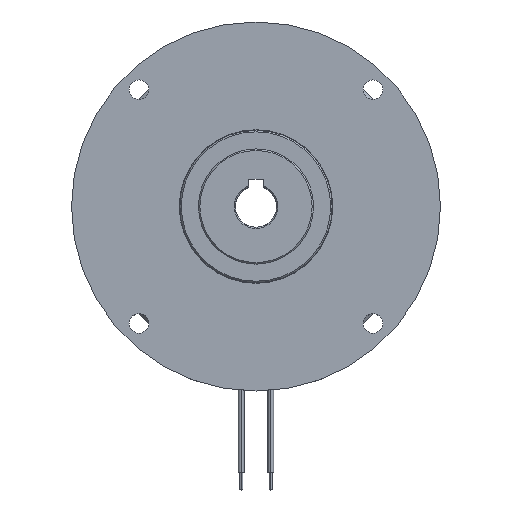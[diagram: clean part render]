
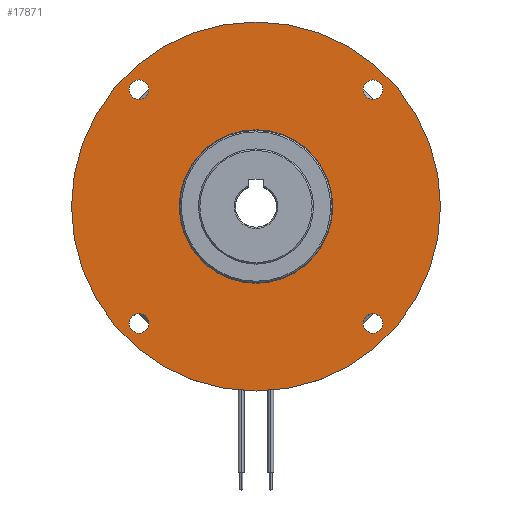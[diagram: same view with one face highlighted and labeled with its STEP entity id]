
A CAD part, top view. The second image highlights one B-rep face of the part: STEP entity #17871.
In plain terms, the highlighted planar face has unit normal (0, 0, 1).
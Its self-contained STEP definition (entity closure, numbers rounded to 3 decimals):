
#68 = AXIS2_PLACEMENT_3D ( 'NONE', #74903, #23987, #92444 ) ;
#269 = ORIENTED_EDGE ( 'NONE', *, *, #65833, .F. ) ;
#660 = DIRECTION ( 'NONE',  ( 0., 0., -1. ) ) ;
#692 = DIRECTION ( 'NONE',  ( -1., 0., 0. ) ) ;
#1361 = CIRCLE ( 'NONE', #68245, 3.3 ) ;
#1866 = DIRECTION ( 'NONE',  ( -1., 0., 0. ) ) ;
#3695 = CIRCLE ( 'NONE', #12713, 62.5 ) ;
#4883 = EDGE_LOOP ( 'NONE', ( #16356, #80460 ) ) ;
#5088 = CIRCLE ( 'NONE', #46680, 3.3 ) ;
#6020 = DIRECTION ( 'NONE',  ( 0., 0., -1. ) ) ;
#7030 = CIRCLE ( 'NONE', #70202, 62.5 ) ;
#7189 = CARTESIAN_POINT ( 'NONE',  ( -42.898, -39.598, 0. ) ) ;
#8054 = CARTESIAN_POINT ( 'NONE',  ( -39.598, 39.598, 0. ) ) ;
#9470 = CARTESIAN_POINT ( 'NONE',  ( 0., 0., 0. ) ) ;
#9698 = EDGE_LOOP ( 'NONE', ( #66117, #92551 ) ) ;
#12713 = AXIS2_PLACEMENT_3D ( 'NONE', #110730, #76758, #33273 ) ;
#13439 = EDGE_LOOP ( 'NONE', ( #101903, #82038 ) ) ;
#16356 = ORIENTED_EDGE ( 'NONE', *, *, #108121, .T. ) ;
#16837 = VERTEX_POINT ( 'NONE', #46848 ) ;
#16967 = VERTEX_POINT ( 'NONE', #7189 ) ;
#17064 = ORIENTED_EDGE ( 'NONE', *, *, #96560, .F. ) ;
#17630 = FACE_BOUND ( 'NONE', #90251, .T. ) ;
#17871 = ADVANCED_FACE ( 'NONE', ( #103616, #17630, #111565, #60642, #44217, #86608 ), #43670, .F. ) ;
#18664 = AXIS2_PLACEMENT_3D ( 'NONE', #83115, #75193, #92736 ) ;
#19136 = AXIS2_PLACEMENT_3D ( 'NONE', #34771, #26816, #1866 ) ;
#19242 = AXIS2_PLACEMENT_3D ( 'NONE', #78135, #660, #76461 ) ;
#20555 = CARTESIAN_POINT ( 'NONE',  ( 42.898, 39.598, 0. ) ) ;
#21844 = DIRECTION ( 'NONE',  ( -1., 0., 0. ) ) ;
#23235 = CARTESIAN_POINT ( 'NONE',  ( 39.598, -39.598, 0. ) ) ;
#23514 = EDGE_LOOP ( 'NONE', ( #96512, #34102 ) ) ;
#23987 = DIRECTION ( 'NONE',  ( 0., 0., -1. ) ) ;
#25369 = DIRECTION ( 'NONE',  ( 0., 0., -1. ) ) ;
#26613 = CARTESIAN_POINT ( 'NONE',  ( 39.598, -39.598, 0. ) ) ;
#26816 = DIRECTION ( 'NONE',  ( 0., 0., -1. ) ) ;
#26890 = VERTEX_POINT ( 'NONE', #72014 ) ;
#28003 = CARTESIAN_POINT ( 'NONE',  ( 62.5, 0., 0. ) ) ;
#28150 = DIRECTION ( 'NONE',  ( 0., 0., -1. ) ) ;
#29983 = VERTEX_POINT ( 'NONE', #70294 ) ;
#30947 = DIRECTION ( 'NONE',  ( 0., 0., -1. ) ) ;
#31360 = CARTESIAN_POINT ( 'NONE',  ( -36.298, -39.598, 0. ) ) ;
#31887 = CIRCLE ( 'NONE', #19136, 26. ) ;
#33273 = DIRECTION ( 'NONE',  ( -1., 0., 0. ) ) ;
#34014 = DIRECTION ( 'NONE',  ( 0., 0., -1. ) ) ;
#34102 = ORIENTED_EDGE ( 'NONE', *, *, #56947, .T. ) ;
#34771 = CARTESIAN_POINT ( 'NONE',  ( 0., 0., 0. ) ) ;
#37640 = VERTEX_POINT ( 'NONE', #50571 ) ;
#37889 = AXIS2_PLACEMENT_3D ( 'NONE', #23235, #40217, #92248 ) ;
#40217 = DIRECTION ( 'NONE',  ( 0., 0., -1. ) ) ;
#43472 = CIRCLE ( 'NONE', #68, 3.3 ) ;
#43513 = DIRECTION ( 'NONE',  ( 0., 0., -1. ) ) ;
#43670 = PLANE ( 'NONE',  #19242 ) ;
#44217 = FACE_OUTER_BOUND ( 'NONE', #87668, .T. ) ;
#46508 = CARTESIAN_POINT ( 'NONE',  ( 26., 0., 0. ) ) ;
#46680 = AXIS2_PLACEMENT_3D ( 'NONE', #26613, #34014, #94472 ) ;
#46848 = CARTESIAN_POINT ( 'NONE',  ( -26., 0., 0. ) ) ;
#49056 = CARTESIAN_POINT ( 'NONE',  ( 39.598, 39.598, 0. ) ) ;
#49224 = AXIS2_PLACEMENT_3D ( 'NONE', #49056, #6020, #99368 ) ;
#49404 = CIRCLE ( 'NONE', #18664, 3.3 ) ;
#50571 = CARTESIAN_POINT ( 'NONE',  ( -62.5, 0., 0. ) ) ;
#53791 = VERTEX_POINT ( 'NONE', #60282 ) ;
#55909 = CIRCLE ( 'NONE', #37889, 3.3 ) ;
#56947 = EDGE_CURVE ( 'NONE', #105811, #111393, #49404, .T. ) ;
#60166 = EDGE_CURVE ( 'NONE', #94751, #16837, #31887, .T. ) ;
#60282 = CARTESIAN_POINT ( 'NONE',  ( 36.298, -39.598, 0. ) ) ;
#60642 = FACE_BOUND ( 'NONE', #13439, .T. ) ;
#64037 = EDGE_CURVE ( 'NONE', #26890, #29983, #1361, .T. ) ;
#64377 = EDGE_CURVE ( 'NONE', #53791, #108911, #5088, .T. ) ;
#64469 = CIRCLE ( 'NONE', #84319, 26. ) ;
#64922 = AXIS2_PLACEMENT_3D ( 'NONE', #105604, #28150, #95470 ) ;
#65833 = EDGE_CURVE ( 'NONE', #37640, #74515, #7030, .T. ) ;
#66117 = ORIENTED_EDGE ( 'NONE', *, *, #98934, .T. ) ;
#66733 = CIRCLE ( 'NONE', #64922, 3.3 ) ;
#68245 = AXIS2_PLACEMENT_3D ( 'NONE', #8054, #78169, #692 ) ;
#69699 = EDGE_CURVE ( 'NONE', #108911, #53791, #55909, .T. ) ;
#70202 = AXIS2_PLACEMENT_3D ( 'NONE', #9470, #25369, #76823 ) ;
#70294 = CARTESIAN_POINT ( 'NONE',  ( -36.298, 39.598, 0. ) ) ;
#71147 = EDGE_CURVE ( 'NONE', #102477, #16967, #66733, .T. ) ;
#72014 = CARTESIAN_POINT ( 'NONE',  ( -42.898, 39.598, 0. ) ) ;
#74333 = CARTESIAN_POINT ( 'NONE',  ( 36.298, 39.598, 0. ) ) ;
#74432 = CIRCLE ( 'NONE', #49224, 3.3 ) ;
#74434 = CARTESIAN_POINT ( 'NONE',  ( 0., 0., 0. ) ) ;
#74515 = VERTEX_POINT ( 'NONE', #28003 ) ;
#74903 = CARTESIAN_POINT ( 'NONE',  ( -39.598, -39.598, 0. ) ) ;
#75193 = DIRECTION ( 'NONE',  ( 0., 0., -1. ) ) ;
#75352 = CIRCLE ( 'NONE', #86155, 3.3 ) ;
#76461 = DIRECTION ( 'NONE',  ( -1., 0., 0. ) ) ;
#76758 = DIRECTION ( 'NONE',  ( 0., 0., -1. ) ) ;
#76823 = DIRECTION ( 'NONE',  ( -1., 0., 0. ) ) ;
#78135 = CARTESIAN_POINT ( 'NONE',  ( 0., 62.5, 0. ) ) ;
#78169 = DIRECTION ( 'NONE',  ( 0., 0., -1. ) ) ;
#80460 = ORIENTED_EDGE ( 'NONE', *, *, #71147, .T. ) ;
#82038 = ORIENTED_EDGE ( 'NONE', *, *, #91646, .T. ) ;
#82571 = ORIENTED_EDGE ( 'NONE', *, *, #69699, .T. ) ;
#83115 = CARTESIAN_POINT ( 'NONE',  ( 39.598, 39.598, 0. ) ) ;
#84319 = AXIS2_PLACEMENT_3D ( 'NONE', #74434, #30947, #21844 ) ;
#86155 = AXIS2_PLACEMENT_3D ( 'NONE', #86460, #43513, #101800 ) ;
#86460 = CARTESIAN_POINT ( 'NONE',  ( -39.598, 39.598, 0. ) ) ;
#86608 = FACE_BOUND ( 'NONE', #9698, .T. ) ;
#87668 = EDGE_LOOP ( 'NONE', ( #269, #17064 ) ) ;
#90251 = EDGE_LOOP ( 'NONE', ( #99288, #82571 ) ) ;
#91646 = EDGE_CURVE ( 'NONE', #29983, #26890, #75352, .T. ) ;
#92248 = DIRECTION ( 'NONE',  ( -1., 0., 0. ) ) ;
#92444 = DIRECTION ( 'NONE',  ( -1., 0., 0. ) ) ;
#92551 = ORIENTED_EDGE ( 'NONE', *, *, #60166, .T. ) ;
#92736 = DIRECTION ( 'NONE',  ( -1., 0., 0. ) ) ;
#94397 = CARTESIAN_POINT ( 'NONE',  ( 42.898, -39.598, 0. ) ) ;
#94472 = DIRECTION ( 'NONE',  ( -1., 0., 0. ) ) ;
#94751 = VERTEX_POINT ( 'NONE', #46508 ) ;
#95470 = DIRECTION ( 'NONE',  ( -1., 0., 0. ) ) ;
#96512 = ORIENTED_EDGE ( 'NONE', *, *, #110052, .T. ) ;
#96560 = EDGE_CURVE ( 'NONE', #74515, #37640, #3695, .T. ) ;
#98934 = EDGE_CURVE ( 'NONE', #16837, #94751, #64469, .T. ) ;
#99288 = ORIENTED_EDGE ( 'NONE', *, *, #64377, .T. ) ;
#99368 = DIRECTION ( 'NONE',  ( -1., 0., 0. ) ) ;
#101800 = DIRECTION ( 'NONE',  ( -1., 0., 0. ) ) ;
#101903 = ORIENTED_EDGE ( 'NONE', *, *, #64037, .T. ) ;
#102477 = VERTEX_POINT ( 'NONE', #31360 ) ;
#103616 = FACE_BOUND ( 'NONE', #23514, .T. ) ;
#105604 = CARTESIAN_POINT ( 'NONE',  ( -39.598, -39.598, 0. ) ) ;
#105811 = VERTEX_POINT ( 'NONE', #20555 ) ;
#108121 = EDGE_CURVE ( 'NONE', #16967, #102477, #43472, .T. ) ;
#108911 = VERTEX_POINT ( 'NONE', #94397 ) ;
#110052 = EDGE_CURVE ( 'NONE', #111393, #105811, #74432, .T. ) ;
#110730 = CARTESIAN_POINT ( 'NONE',  ( 0., 0., 0. ) ) ;
#111393 = VERTEX_POINT ( 'NONE', #74333 ) ;
#111565 = FACE_BOUND ( 'NONE', #4883, .T. ) ;
